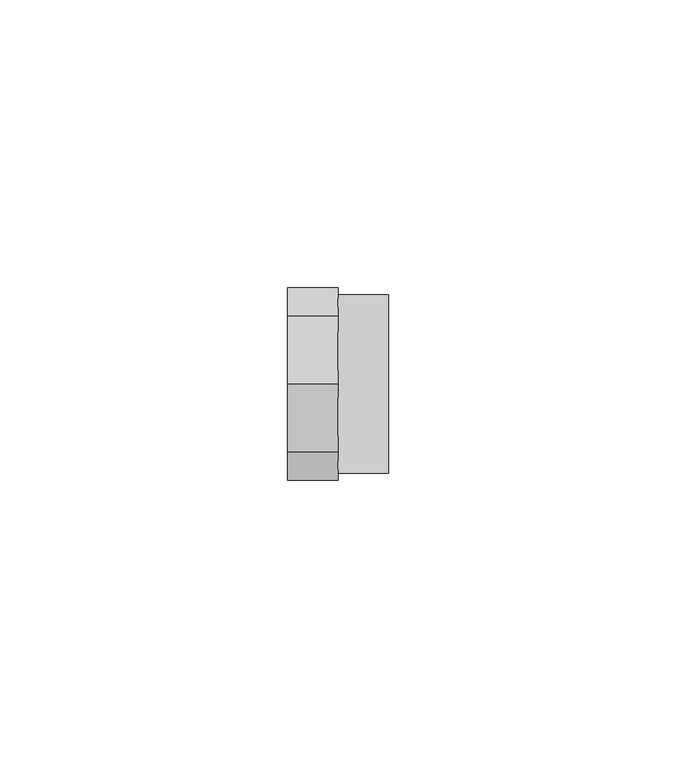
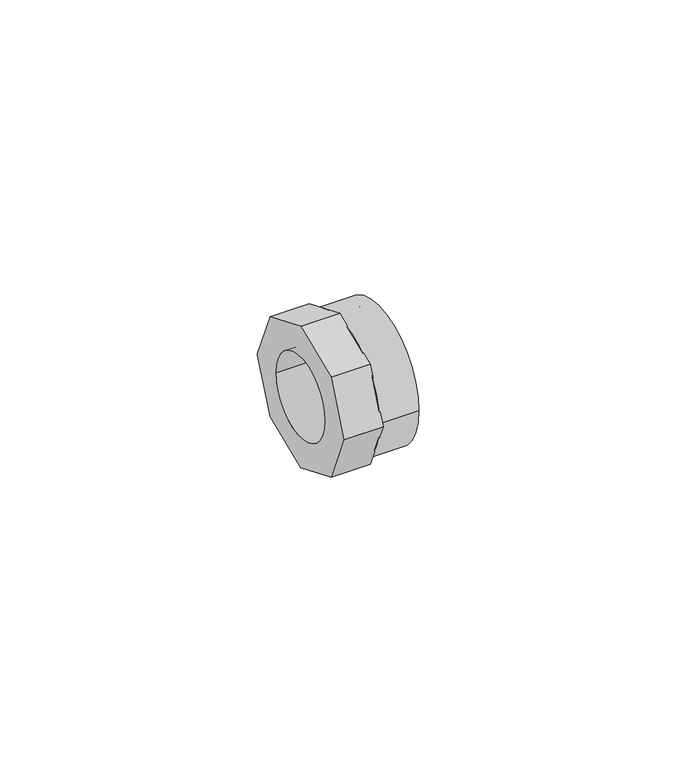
"""IFC4 building model written with IfcOpenShell, lengths in millimetres: pipe fitting geometry, REHAU_RAUTITAN_Adaptor_RX+, with internal thread : REHAU_RAUTITAN_Adaptor_RX+, with internal thread."""

from ifc_helpers import new_model, si_unit, point, frame, origin, origin_2d, place, context, project, spatial, polyline, circle_curve, trimmed, segment, composite_curve, outline, extrude, source, transform, mapped, element, save


def pipe_fitting_14bc0ab8(model_context):
    return source(origin(), model_context, "Body", "SweptSolid", [
        extrude(outline(composite_curve([segment(trimmed(circle_curve(origin_2d(), 15.5), [point((-15.5, 0.0))], [point((15.5, 0.0))], False, "CARTESIAN"), True, "CONTINUOUS"), segment(trimmed(circle_curve(origin_2d(), 15.5), [point((15.5, 0.0))], [point((-15.5, 0.0))], False, "CARTESIAN"), True, "CONTINUOUS")], self_intersect=False), holes=[composite_curve([segment(trimmed(circle_curve(origin_2d(), 13.005), [point((-13.005, 0.0))], [point((13.005, 0.0))], True, "CARTESIAN"), True, "CONTINUOUS"), segment(trimmed(circle_curve(origin_2d(), 13.005), [point((13.005, 0.0))], [point((-13.005, 0.0))], True, "CARTESIAN"), True, "CONTINUOUS")], self_intersect=False)]), frame((4.41, 0.0, 0.0), z_axis=(1.0, 0.0, 0.0), x_axis=(0.0, 1.0, 0.0)), (0.0, 0.0, 1.0), 8.79),
        extrude(outline(polyline([(-11.8631864, 11.8631864), (0.0, 16.7770791), (11.8631864, 11.8631864), (16.7770791, 0.0), (11.8631864, -11.8631864), (0.0, -16.7770791), (-11.8631864, -11.8631864), (-16.7770791, 0.0), (-11.8631864, 11.8631864)]), holes=[composite_curve([segment(trimmed(circle_curve(origin_2d(), 9.5), [point((-9.5, 0.0))], [point((9.5, 0.0))], True, "CARTESIAN"), True, "CONTINUOUS"), segment(trimmed(circle_curve(origin_2d(), 9.5), [point((9.5, 0.0))], [point((-9.5, 0.0))], True, "CARTESIAN"), True, "CONTINUOUS")], self_intersect=False)]), frame((-4.41, 0.0, 0.0), z_axis=(1.0, 0.0, 0.0), x_axis=(0.0, 1.0, 0.0)), (0.0, 0.0, 1.0), 8.82),
    ])


if __name__ == "__main__":
    model = new_model("IFC4")
    model_context = context("Model", 3, world=origin())
    ifc_project = project(units=[si_unit("LENGTHUNIT", "METRE", prefix="MILLI")], contexts=[model_context])
    site = spatial("IfcSite", under=ifc_project)
    building = spatial("IfcBuilding", under=site)
    placement = place(None, origin())
    pipe_fitting_shape = pipe_fitting_14bc0ab8(model_context)
    element("IfcPipeFitting", 1, ObjectType="REHAU_RAUTITAN_Adaptor_RX+, with internal thread : REHAU_RAUTITAN_Adaptor_RX+, with internal thread", at=placement, inside=building, context=model_context, shape_type="MappedRepresentation", body=[
        mapped(pipe_fitting_shape, transform((0.0, 0.0, 0.0), x_axis=(1.0, 0.0, 0.0), y_axis=(0.0, 1.0, 0.0), z_axis=(0.0, 0.0, 1.0))),
    ])
    save(model, "model.ifc")
